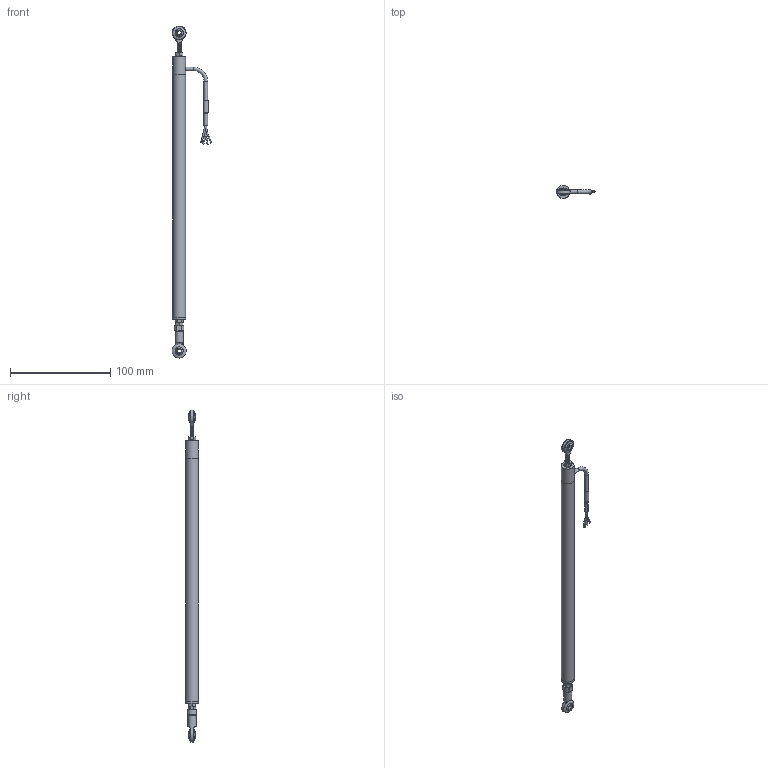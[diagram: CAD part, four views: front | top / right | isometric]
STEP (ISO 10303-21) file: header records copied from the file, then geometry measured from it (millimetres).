
FILE_DESCRIPTION(/* description */ (''),/* implementation_level */ '2;1');
FILE_NAME(/* name */ 'LPPS-12-200-R Assembly (wrapped).step',/* time_stamp */ '2023-10-10T14:08:10-04:00',/* author */ ('TSC_Grant'),/* organization */ (''),/* preprocessor_version */ 'ST-DEVELOPER v19.2',/* originating_system */ 'Autodesk Inventor 2024',/* authorisation */ '');
FILE_SCHEMA (('AUTOMOTIVE_DESIGN { 1 0 10303 214 3 1 1 }'));
Length unit declared in the file: inch
Products named in the file (4): LPPS-12-010-R Assembly (wrapped); LPPS-12-010-R Body (wrapped); LPPS-12-010-R Spoiler (wrapped); Wire
Assembly tree (3 placements, depth 2):
  LPPS-12-010-R Assembly (wrapped)
    LPPS-12-010-R Body (wrapped)
    LPPS-12-010-R Spoiler (wrapped)
    Wire
Bounding box: 39.48 x 12.7 x 330.7 mm (x, y, z)
Volume: 36125.2 mm3; surface area: 20365.7 mm2
Topology: 13 solids, 13 shells, 200 faces, 462 edges, 306 vertices
Faces by surface type: plane 94, cylinder 74, bspline 21, torus 7, sphere 4
Full cylindrical faces by diameter (mm): 1.016 x3, 1.27 x1, 1.524 x3, 1.651 x2, 3.632 x5, 3.937 x14, 4.14 x2, 4.191 x1, 4.445 x1, 6.604 x1, 8.001 x1, 12.7 x3
Entity records: 9553 total; most frequent: CARTESIAN_POINT 4684, ORIENTED_EDGE 924, DIRECTION 895, EDGE_CURVE 462, AXIS2_PLACEMENT_3D 345, VERTEX_POINT 306, EDGE_LOOP 228, LINE 205
